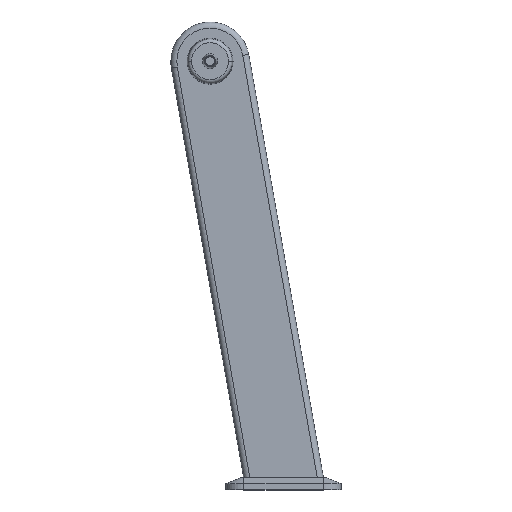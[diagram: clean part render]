
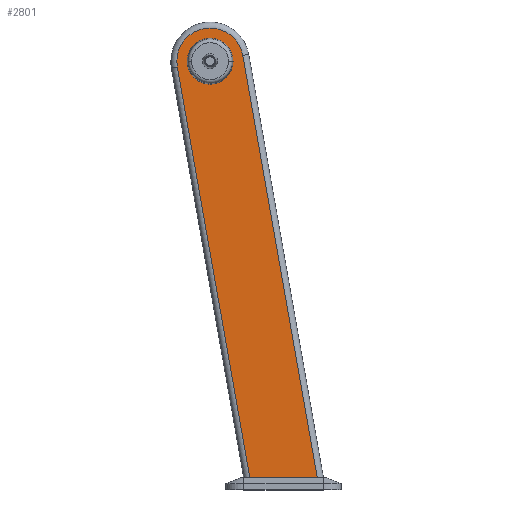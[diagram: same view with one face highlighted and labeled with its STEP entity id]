
A CAD part, top view. The second image highlights one B-rep face of the part: STEP entity #2801.
In plain terms, the highlighted planar face has unit normal (0, 0, 1).
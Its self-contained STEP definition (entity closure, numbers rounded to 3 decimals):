
#16 = CARTESIAN_POINT ( 'NONE',  ( 0., -690., 31.25 ) ) ;
#20 = FACE_BOUND ( 'NONE', #1408, .T. ) ;
#50 = LINE ( 'NONE', #16, #671 ) ;
#77 = CARTESIAN_POINT ( 'NONE',  ( 69.038, -708.264, 31.25 ) ) ;
#201 = CARTESIAN_POINT ( 'NONE',  ( -54.164, -9.551, 31.25 ) ) ;
#228 = LINE ( 'NONE', #2730, #2036 ) ;
#281 = ORIENTED_EDGE ( 'NONE', *, *, #1039, .F. ) ;
#559 = VERTEX_POINT ( 'NONE', #201 ) ;
#629 = DIRECTION ( 'NONE',  ( 0., 0., 1. ) ) ;
#671 = VECTOR ( 'NONE', #1770, 1000. ) ;
#710 = CIRCLE ( 'NONE', #1337, 38. ) ;
#746 = CIRCLE ( 'NONE', #1406, 55. ) ;
#831 = VECTOR ( 'NONE', #2319, 1000. ) ;
#837 = EDGE_CURVE ( 'NONE', #1479, #559, #746, .T. ) ;
#1028 = DIRECTION ( 'NONE',  ( 0., 0., 1. ) ) ;
#1039 = EDGE_CURVE ( 'NONE', #2643, #2213, #710, .T. ) ;
#1063 = VERTEX_POINT ( 'NONE', #2845 ) ;
#1098 = CARTESIAN_POINT ( 'NONE',  ( 65.817, -690., 31.25 ) ) ;
#1160 = EDGE_CURVE ( 'NONE', #2213, #2643, #1541, .T. ) ;
#1186 = AXIS2_PLACEMENT_3D ( 'NONE', #2470, #1028, #2741 ) ;
#1337 = AXIS2_PLACEMENT_3D ( 'NONE', #2099, #629, #2341 ) ;
#1343 = CARTESIAN_POINT ( 'NONE',  ( 0., 0., 31.25 ) ) ;
#1406 = AXIS2_PLACEMENT_3D ( 'NONE', #1343, #3080, #1600 ) ;
#1408 = EDGE_LOOP ( 'NONE', ( #2902, #281 ) ) ;
#1427 = CARTESIAN_POINT ( 'NONE',  ( 0., 0., 31.25 ) ) ;
#1457 = CARTESIAN_POINT ( 'NONE',  ( -38., 0., 31.25 ) ) ;
#1479 = VERTEX_POINT ( 'NONE', #2057 ) ;
#1480 = LINE ( 'NONE', #77, #831 ) ;
#1541 = CIRCLE ( 'NONE', #2998, 38. ) ;
#1555 = ORIENTED_EDGE ( 'NONE', *, *, #1914, .T. ) ;
#1600 = DIRECTION ( 'NONE',  ( 1., 0., 0. ) ) ;
#1677 = DIRECTION ( 'NONE',  ( 1., 0., 0. ) ) ;
#1770 = DIRECTION ( 'NONE',  ( 1., 0., 0. ) ) ;
#1825 = ORIENTED_EDGE ( 'NONE', *, *, #1881, .T. ) ;
#1881 = EDGE_CURVE ( 'NONE', #1063, #1479, #228, .T. ) ;
#1914 = EDGE_CURVE ( 'NONE', #2993, #1063, #50, .T. ) ;
#1984 = DIRECTION ( 'NONE',  ( -0.174, 0.985, 0. ) ) ;
#2036 = VECTOR ( 'NONE', #1984, 1000. ) ;
#2057 = CARTESIAN_POINT ( 'NONE',  ( 54.164, 9.551, 31.25 ) ) ;
#2099 = CARTESIAN_POINT ( 'NONE',  ( 0., 0., 31.25 ) ) ;
#2213 = VERTEX_POINT ( 'NONE', #2500 ) ;
#2319 = DIRECTION ( 'NONE',  ( 0.174, -0.985, 0. ) ) ;
#2341 = DIRECTION ( 'NONE',  ( 1., 0., 0. ) ) ;
#2470 = CARTESIAN_POINT ( 'NONE',  ( 0., 0., 31.25 ) ) ;
#2496 = PLANE ( 'NONE',  #1186 ) ;
#2500 = CARTESIAN_POINT ( 'NONE',  ( 38., 0., 31.25 ) ) ;
#2513 = ORIENTED_EDGE ( 'NONE', *, *, #837, .T. ) ;
#2643 = VERTEX_POINT ( 'NONE', #1457 ) ;
#2678 = FACE_OUTER_BOUND ( 'NONE', #2780, .T. ) ;
#2730 = CARTESIAN_POINT ( 'NONE',  ( 54.164, 9.551, 31.25 ) ) ;
#2741 = DIRECTION ( 'NONE',  ( 1., 0., 0. ) ) ;
#2780 = EDGE_LOOP ( 'NONE', ( #1825, #2513, #3112, #1555 ) ) ;
#2801 = ADVANCED_FACE ( 'NONE', ( #2678, #20 ), #2496, .T. ) ;
#2845 = CARTESIAN_POINT ( 'NONE',  ( 177.514, -690., 31.25 ) ) ;
#2902 = ORIENTED_EDGE ( 'NONE', *, *, #1160, .F. ) ;
#2979 = EDGE_CURVE ( 'NONE', #559, #2993, #1480, .T. ) ;
#2993 = VERTEX_POINT ( 'NONE', #1098 ) ;
#2998 = AXIS2_PLACEMENT_3D ( 'NONE', #1427, #3155, #1677 ) ;
#3080 = DIRECTION ( 'NONE',  ( 0., 0., 1. ) ) ;
#3112 = ORIENTED_EDGE ( 'NONE', *, *, #2979, .T. ) ;
#3155 = DIRECTION ( 'NONE',  ( 0., 0., 1. ) ) ;
